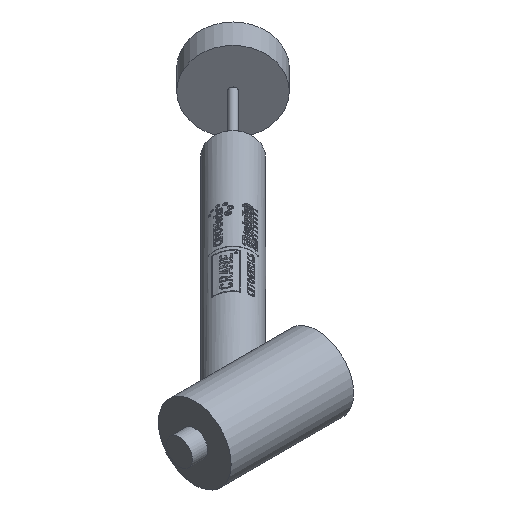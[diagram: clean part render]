
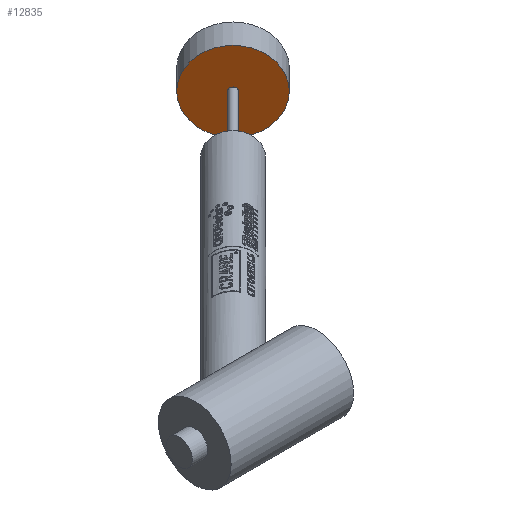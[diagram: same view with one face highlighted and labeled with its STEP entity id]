
A CAD part, isometric view. The second image highlights one B-rep face of the part: STEP entity #12835.
In plain terms, the highlighted planar face has unit normal (-0.707, -0.707, 0).
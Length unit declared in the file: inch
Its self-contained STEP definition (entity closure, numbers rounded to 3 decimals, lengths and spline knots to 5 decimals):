
#3089 = FACE_BOUND ( 'NONE', #37212, .T. ) ;
#3794 = DIRECTION ( 'NONE',  ( 0.707, 0.707, 0. ) ) ;
#4237 = VERTEX_POINT ( 'NONE', #12161 ) ;
#8760 = DIRECTION ( 'NONE',  ( 0., 0., -1. ) ) ;
#10751 = EDGE_CURVE ( 'NONE', #4237, #4237, #25226, .T. ) ;
#10763 = CARTESIAN_POINT ( 'NONE',  ( 7.65114, 10.2382, 0. ) ) ;
#11223 = EDGE_CURVE ( 'NONE', #37341, #37341, #12251, .T. ) ;
#12161 = CARTESIAN_POINT ( 'NONE',  ( 8.56967, 9.31967, -0.125 ) ) ;
#12251 = CIRCLE ( 'NONE', #19885, 1.299 ) ;
#12835 = ADVANCED_FACE ( 'NONE', ( #3089, #36893 ), #18426, .F. ) ;
#12943 = AXIS2_PLACEMENT_3D ( 'NONE', #10763, #3794, #36201 ) ;
#17956 = DIRECTION ( 'NONE',  ( -0.707, -0.707, 0. ) ) ;
#18426 = PLANE ( 'NONE',  #12943 ) ;
#19885 = AXIS2_PLACEMENT_3D ( 'NONE', #27232, #41857, #8760 ) ;
#20366 = ORIENTED_EDGE ( 'NONE', *, *, #10751, .F. ) ;
#21356 = ORIENTED_EDGE ( 'NONE', *, *, #11223, .T. ) ;
#22497 = CARTESIAN_POINT ( 'NONE',  ( 8.56967, 9.31967, 0. ) ) ;
#25226 = CIRCLE ( 'NONE', #45158, 0.125 ) ;
#26072 = CARTESIAN_POINT ( 'NONE',  ( 8.56967, 9.31967, -1.299 ) ) ;
#27232 = CARTESIAN_POINT ( 'NONE',  ( 8.56967, 9.31967, 0. ) ) ;
#36191 = DIRECTION ( 'NONE',  ( 0., 0., -1. ) ) ;
#36201 = DIRECTION ( 'NONE',  ( 0., 0., 1. ) ) ;
#36893 = FACE_OUTER_BOUND ( 'NONE', #42662, .T. ) ;
#37212 = EDGE_LOOP ( 'NONE', ( #20366 ) ) ;
#37341 = VERTEX_POINT ( 'NONE', #26072 ) ;
#41857 = DIRECTION ( 'NONE',  ( -0.707, -0.707, 0. ) ) ;
#42662 = EDGE_LOOP ( 'NONE', ( #21356 ) ) ;
#45158 = AXIS2_PLACEMENT_3D ( 'NONE', #22497, #17956, #36191 ) ;
